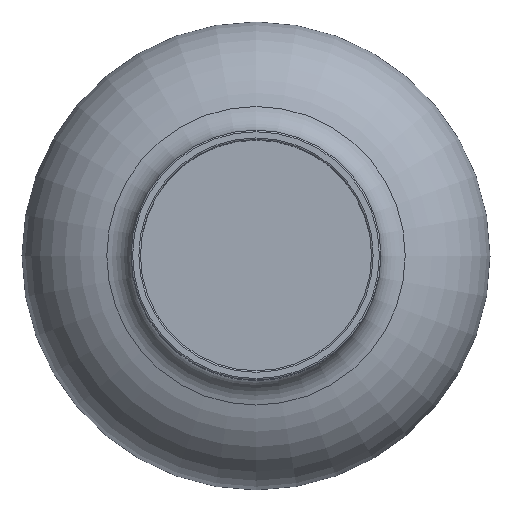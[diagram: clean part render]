
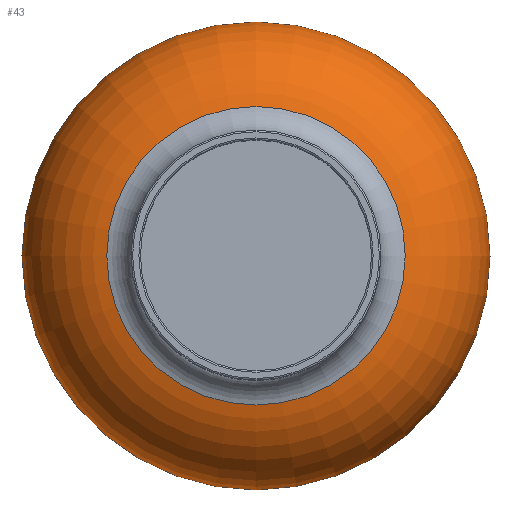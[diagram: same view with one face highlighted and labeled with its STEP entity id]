
A CAD part, top view. The second image highlights one B-rep face of the part: STEP entity #43.
In plain terms, the highlighted toroidal (fillet/blend) face has major radius 40 mm and minor radius 35 mm.
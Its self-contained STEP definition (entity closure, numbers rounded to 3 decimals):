
#43 = ADVANCED_FACE( '', ( #90, #91 ), #92, .T. );
#90 = FACE_OUTER_BOUND( '', #139, .T. );
#91 = FACE_OUTER_BOUND( '', #140, .T. );
#92 = TOROIDAL_SURFACE( '', #141, 40., 35. );
#139 = EDGE_LOOP( '', ( #190 ) );
#140 = EDGE_LOOP( '', ( #191 ) );
#141 = AXIS2_PLACEMENT_3D( '', #192, #193, #194 );
#190 = ORIENTED_EDGE( '', *, *, #237, .T. );
#191 = ORIENTED_EDGE( '', *, *, #241, .F. );
#192 = CARTESIAN_POINT( '', ( 0., 0., 35. ) );
#193 = DIRECTION( '', ( 0., 0., 1. ) );
#194 = DIRECTION( '', ( 1., 0., 0. ) );
#237 = EDGE_CURVE( '', #263, #263, #264, .T. );
#241 = EDGE_CURVE( '', #269, #269, #270, .T. );
#263 = VERTEX_POINT( '', #294 );
#264 = CIRCLE( '', #295, 47.778 );
#269 = VERTEX_POINT( '', #300 );
#270 = CIRCLE( '', #301, 40. );
#294 = CARTESIAN_POINT( '', ( -47.778, 0., 69.125 ) );
#295 = AXIS2_PLACEMENT_3D( '', #327, #328, #329 );
#300 = CARTESIAN_POINT( '', ( -40., 0., 0. ) );
#301 = AXIS2_PLACEMENT_3D( '', #333, #334, #335 );
#327 = CARTESIAN_POINT( '', ( 0., 0., 69.125 ) );
#328 = DIRECTION( '', ( 0., 0., -1. ) );
#329 = DIRECTION( '', ( -1., 0., 0. ) );
#333 = CARTESIAN_POINT( '', ( 0., 0., 0. ) );
#334 = DIRECTION( '', ( 0., 0., -1. ) );
#335 = DIRECTION( '', ( -1., 0., 0. ) );
